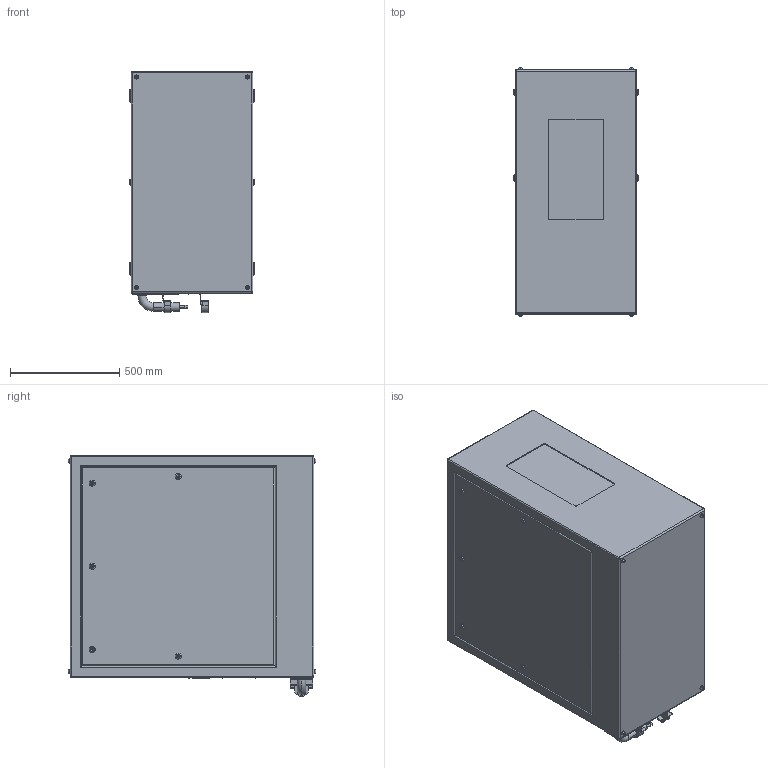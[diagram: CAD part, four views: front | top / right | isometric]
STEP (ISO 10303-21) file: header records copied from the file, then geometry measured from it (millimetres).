
FILE_DESCRIPTION (( 'STEP AP214' ), '1' );
FILE_NAME ('Oasis 59.125.P R02.STEP', '2022-09-12T23:34:49', ( '' ), ( '' ), 'SwSTEP 2.0', 'SolidWorks 2020', '' );
FILE_SCHEMA (( 'AUTOMOTIVE_DESIGN' ));
Length unit declared in the file: inch
Products named in the file (1): Oasis 59.125.P R02
Bounding box: 571.5 x 1134.87 x 1104.9 mm (x, y, z)
Volume: 633598386.8 mm3; surface area: 5249739.3 mm2
Topology: 3 solids, 9 shells, 540 faces, 1235 edges, 784 vertices
Faces by surface type: plane 297, cylinder 185, torus 50, bspline 8
Entity records: 20655 total; most frequent: CARTESIAN_POINT 3072, DIRECTION 2695, ORIENTED_EDGE 2454, EDGE_CURVE 1227, AXIS2_PLACEMENT_3D 967, VERTEX_POINT 784, VECTOR 761, LINE 761
